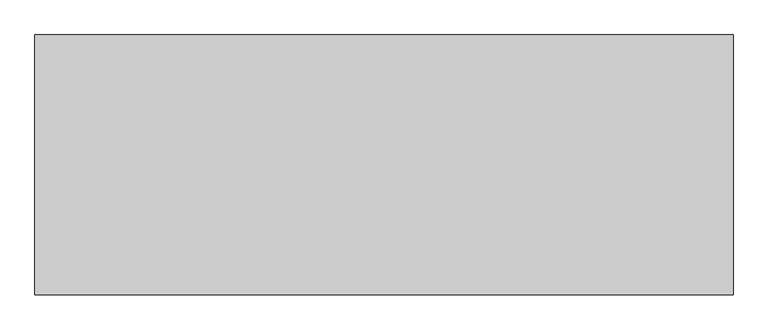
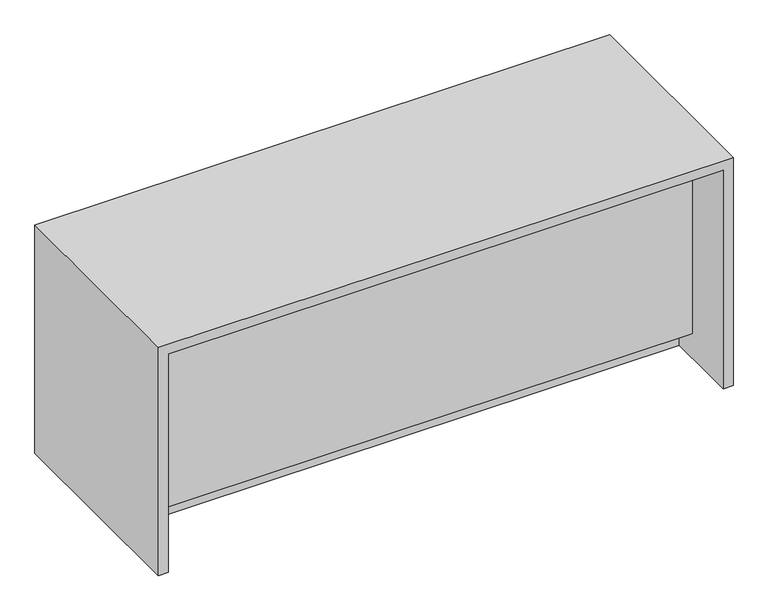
"""IFC4 building model written with IfcOpenShell, lengths in millimetres: furniture geometry, Casework Schematic - Base and Upper : Casework Schematic."""

import ifcopenshell
import ifcopenshell.guid

model = None  # the IFC model being written
_history = None  # IfcOwnerHistory: only IFC2X3 demands one
_inside = {}  # id of a spatial element -> (the spatial element, [elements in it])
_under = {}  # id of a project, library or spatial element -> (it, [spatial elements below it])
_declared = {}  # id of a project -> (the project, [libraries it declares])
_typed = {}  # id of a type object -> (the type object, [elements of that type])
_made_of = {}  # id of a material, layer set ... -> (it, [elements and type objects made of it])


def new_model(schema):
    """Start an empty IFC model of exactly this schema.

    Asked for "IFC4X3", IfcOpenShell would pick the latest addendum, in which some entities
    have other attributes; the version numbers below select the first issue.
    IFC2X3 requires an IfcOwnerHistory on every rooted entity: one is made here for all.
    """
    global model, _history
    if schema == "IFC4X3":
        model = ifcopenshell.file(schema_version=(4, 3, 0, 0))
    else:
        model = ifcopenshell.file(schema=schema)
    _inside.clear()
    _under.clear()
    _declared.clear()
    _typed.clear()
    _made_of.clear()
    _history = None
    if model.schema == "IFC2X3":
        org = make("IfcOrganization", Name="unknown")
        user = make(
            "IfcPersonAndOrganization",
            ThePerson=make("IfcPerson", FamilyName="unknown"),
            TheOrganization=org,
        )
        app = make(
            "IfcApplication",
            ApplicationDeveloper=org,
            Version="unknown",
            ApplicationFullName="unknown",
            ApplicationIdentifier="unknown",
        )
        _history = make(
            "IfcOwnerHistory",
            OwningUser=user,
            OwningApplication=app,
            ChangeAction="ADDED",
            CreationDate=0,
        )
    return model


def make(cls, **values):
    """One entity of the class cls with the attributes given. An attribute that is None is left unset."""
    return model.create_entity(
        cls, **{name: value for name, value in values.items() if value is not None}
    )


def rooted(cls, **values):
    """An entity with a GlobalId (a new one), such as an element, a storey or a relation."""
    return make(cls, GlobalId=ifcopenshell.guid.new(), OwnerHistory=_history, **values)


def si_unit(unit_type, name, prefix=None):
    """IfcSIUnit, for example si_unit("LENGTHUNIT", "METRE", prefix="MILLI")."""
    return make("IfcSIUnit", UnitType=unit_type, Prefix=prefix, Name=name)


def assignment(units):
    """IfcUnitAssignment: the units of a project."""
    return None if units is None else make("IfcUnitAssignment", Units=units)


def point(xyz):
    """IfcCartesianPoint."""
    return None if xyz is None else make("IfcCartesianPoint", Coordinates=xyz)


def direction(xyz):
    """IfcDirection."""
    return None if xyz is None else make("IfcDirection", DirectionRatios=xyz)


def frame(location, z_axis=None, x_axis=None):
    """IfcAxis2Placement3D, a coordinate frame: its origin and axes. An axis left out is left unset."""
    return make(
        "IfcAxis2Placement3D",
        Location=point(location),
        Axis=direction(z_axis),
        RefDirection=direction(x_axis),
    )


def origin():
    """The frame at (0, 0, 0) with its axes left unset."""
    return frame((0.0, 0.0, 0.0))


def place(relative_to, where):
    """IfcLocalPlacement: puts the frame where relative to a parent placement (None: the world)."""
    return make(
        "IfcLocalPlacement", PlacementRelTo=relative_to, RelativePlacement=where
    )


def context(
    kind, dimensions, precision=None, world=None, true_north=None, identifier=None
):
    """IfcGeometricRepresentationContext, for example the 3D "Model" context."""
    return make(
        "IfcGeometricRepresentationContext",
        ContextIdentifier=identifier,
        ContextType=kind,
        CoordinateSpaceDimension=dimensions,
        Precision=precision,
        WorldCoordinateSystem=world,
        TrueNorth=true_north,
    )


def project(units=None, contexts=None):
    """IfcProject with its units and contexts."""
    return rooted(
        "IfcProject",
        Name="project",
        RepresentationContexts=contexts,
        UnitsInContext=assignment(units),
    )


def spatial(cls, under=None, at=None, **own):
    """A site, building, storey or space (cls), placed at a placement, below another one or the project."""
    s = rooted(cls, ObjectPlacement=at, **own)
    if under is not None:
        _under.setdefault(under.id(), (under, []))[1].append(s)
    return s


def polyline(points):
    """IfcPolyline through the points."""
    return make("IfcPolyline", Points=[point(p) for p in points])


def outline(outer, holes=None, kind="AREA"):
    """IfcArbitraryClosedProfileDef: a profile drawn as a closed curve; with holes, ...WithVoids."""
    if holes is None:
        return make("IfcArbitraryClosedProfileDef", ProfileType=kind, OuterCurve=outer)
    return make(
        "IfcArbitraryProfileDefWithVoids",
        ProfileType=kind,
        OuterCurve=outer,
        InnerCurves=holes,
    )


def extrude(swept, where, along, depth):
    """IfcExtrudedAreaSolid: the profile swept, set in the frame where, extruded along a direction by depth."""
    return make(
        "IfcExtrudedAreaSolid",
        SweptArea=swept,
        Position=where,
        ExtrudedDirection=direction(along),
        Depth=depth,
    )


def shape(context_of_items, identifier, shape_type, items):
    """IfcShapeRepresentation: the items that make up one representation, for example the "Body"."""
    return make(
        "IfcShapeRepresentation",
        ContextOfItems=context_of_items,
        RepresentationIdentifier=identifier,
        RepresentationType=shape_type,
        Items=items,
    )


def source(mapping_origin, context_of_items, identifier, shape_type, items):
    """IfcRepresentationMap: a shape defined once, which mapped items show again and again."""
    return make(
        "IfcRepresentationMap",
        MappingOrigin=mapping_origin,
        MappedRepresentation=shape(context_of_items, identifier, shape_type, items),
    )


def transform(
    local_origin,
    x_axis=None,
    y_axis=None,
    z_axis=None,
    scale=None,
    scale2=None,
    scale3=None,
    uniform=True,
):
    """IfcCartesianTransformationOperator3D, or its non-uniform kind. x_axis, y_axis, z_axis: its Axis1, 2, 3."""
    if uniform:
        return make(
            "IfcCartesianTransformationOperator3D",
            Axis1=direction(x_axis),
            Axis2=direction(y_axis),
            LocalOrigin=point(local_origin),
            Scale=scale,
            Axis3=direction(z_axis),
        )
    return make(
        "IfcCartesianTransformationOperator3DnonUniform",
        Axis1=direction(x_axis),
        Axis2=direction(y_axis),
        LocalOrigin=point(local_origin),
        Scale=scale,
        Axis3=direction(z_axis),
        Scale2=scale2,
        Scale3=scale3,
    )


def mapped(mapping_source, mapping_target):
    """IfcMappedItem: shows the shape of a source again, moved by a transform."""
    return make(
        "IfcMappedItem", MappingSource=mapping_source, MappingTarget=mapping_target
    )


def made_of(thing, what):
    """Note that an element or type object is made of a material, layer set ...; save() writes the relation."""
    if what is not None:
        _made_of.setdefault(what.id(), (what, []))[1].append(thing)
    return thing


def element(
    cls,
    number,
    at=None,
    inside=None,
    cuts=None,
    type_object=None,
    material=None,
    context=None,
    identifier="Body",
    shape_type=None,
    held_by="IfcProductDefinitionShape",
    body=None,
    shapes=None,
    **own,
):
    """One element of the class cls, such as IfcWall. Its Tag is "e" and its number.

    at: its placement. inside: the storey or other place that contains it. cuts: it is an
    opening in that element (IfcRelVoidsElement). A single representation is given by context,
    identifier, shape_type and body (its items); several are given by shapes. held_by: the class
    of the entity that holds the representations. save() writes the other relations.
    """
    e = rooted(cls, Tag="e%d" % number, ObjectPlacement=at, **own)
    if body is not None:
        shapes = [shape(context, identifier, shape_type, body)]
    if shapes is not None:
        e.Representation = make(held_by, Representations=shapes)
    if inside is not None:
        _inside.setdefault(inside.id(), (inside, []))[1].append(e)
    if cuts is not None:
        rooted(
            "IfcRelVoidsElement", RelatingBuildingElement=cuts, RelatedOpeningElement=e
        )
    if type_object is not None:
        _typed.setdefault(type_object.id(), (type_object, []))[1].append(e)
    return made_of(e, material)


def aggregate(whole, parts):
    """IfcRelAggregates: a whole, such as a stair, and the parts it consists of."""
    return rooted("IfcRelAggregates", RelatingObject=whole, RelatedObjects=parts)


def save(model, path):
    """Write the relations noted so far, then the file.

    IfcRelAggregates (storeys below a building ...), IfcRelContainedInSpatialStructure (elements
    in a storey), IfcRelDefinesByType, IfcRelAssociatesMaterial and IfcRelDeclares: one each for
    every whole, place, type object, material and project.
    """
    for whole, parts in _under.values():
        aggregate(whole, parts)
    for where, things in _inside.values():
        rooted(
            "IfcRelContainedInSpatialStructure",
            RelatedElements=things,
            RelatingStructure=where,
        )
    for kind, things in _typed.values():
        rooted("IfcRelDefinesByType", RelatedObjects=things, RelatingType=kind)
    for what, things in _made_of.values():
        rooted("IfcRelAssociatesMaterial", RelatedObjects=things, RelatingMaterial=what)
    for by, libraries in _declared.values():
        rooted("IfcRelDeclares", RelatingContext=by, RelatedDefinitions=libraries)
    model.write(path)


def furniture_18aa629a(model_context):
    return source(origin(), model_context, "Body", "SweptSolid", [
        extrude(outline(polyline([(0.0, 876.3), (0.0, 0.0), (-520.7, 0.0), (-520.7, 101.6), (-609.6, 101.6), (-609.6, 876.3), (0.0, 876.3)])), frame((0.0, 0.0, 0.0), z_axis=(1.0, 0.0, 0.0), x_axis=(0.0, 1.0, 0.0)), (0.0, 0.0, 1.0), 2100.0),
        extrude(outline(polyline([(0.0, 2138.1), (914.4, 2138.1), (914.4, -38.1), (0.0, -38.1), (0.0, 0.0), (876.3, 0.0), (876.3, 2100.0), (0.0, 2100.0), (0.0, 2138.1)])), frame((0.0, -809.6, 0.0), z_axis=(0.0, 1.0, 0.0), x_axis=(0.0, 0.0, 1.0)), (0.0, 0.0, 1.0), 809.6),
    ])


if __name__ == "__main__":
    model = new_model("IFC4")
    model_context = context("Model", 3, world=origin())
    ifc_project = project(units=[si_unit("LENGTHUNIT", "METRE", prefix="MILLI")], contexts=[model_context])
    site = spatial("IfcSite", under=ifc_project)
    building = spatial("IfcBuilding", under=site)
    placement = place(None, origin())
    furniture_shape = furniture_18aa629a(model_context)
    element("IfcFurniture", 1, ObjectType="Casework Schematic - Base and Upper : Casework Schematic", at=placement, inside=building, context=model_context, shape_type="MappedRepresentation", body=[
        mapped(furniture_shape, transform((0.0, 0.0, 0.0), x_axis=(1.0, 0.0, 0.0), y_axis=(0.0, 1.0, 0.0), z_axis=(0.0, 0.0, 1.0))),
    ])
    save(model, "model.ifc")
